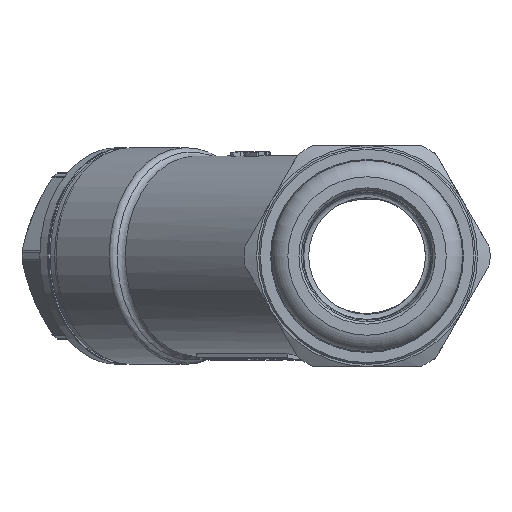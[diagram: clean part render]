
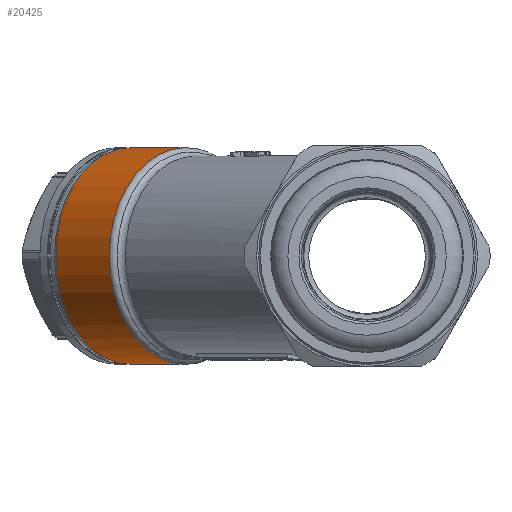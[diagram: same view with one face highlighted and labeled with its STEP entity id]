
A CAD part, left-side view. The second image highlights one B-rep face of the part: STEP entity #20425.
In plain terms, the highlighted cylindrical face has radius 13 mm (diameter 26 mm), a full revolution.
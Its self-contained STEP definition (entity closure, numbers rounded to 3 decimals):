
#14799=CARTESIAN_POINT('',(22.658,15.382,1.412));
#14800=VERTEX_POINT('',#14799);
#14809=CARTESIAN_POINT('',(22.935,15.582,0.765));
#14810=VERTEX_POINT('',#14809);
#14818=CARTESIAN_POINT('',(22.658,15.382,1.412));
#14819=CARTESIAN_POINT('',(22.71,15.423,1.344));
#14820=CARTESIAN_POINT('',(22.754,15.458,1.274));
#14821=CARTESIAN_POINT('',(22.792,15.486,1.202));
#14822=CARTESIAN_POINT('',(22.83,15.514,1.13));
#14823=CARTESIAN_POINT('',(22.861,15.537,1.056));
#14824=CARTESIAN_POINT('',(22.885,15.553,0.983));
#14825=CARTESIAN_POINT('',(22.909,15.569,0.91));
#14826=CARTESIAN_POINT('',(22.925,15.578,0.837));
#14827=CARTESIAN_POINT('',(22.935,15.582,0.765));
#14828=B_SPLINE_CURVE_WITH_KNOTS('',3,(#14818,#14819,#14820,#14821,#14822,#14823,#14824,#14825,#14826,#14827),.UNSPECIFIED.,.F.,.U.,(4,3,3,4),(0.0,0.333,0.667,1.0),.UNSPECIFIED.);
#14829=EDGE_CURVE('',#14800,#14810,#14828,.T.);
#14882=CARTESIAN_POINT('',(19.24,13.238,4.946));
#14883=VERTEX_POINT('',#14882);
#14884=CARTESIAN_POINT('',(19.24,13.238,4.946));
#14885=CARTESIAN_POINT('',(19.716,13.482,4.548));
#14886=CARTESIAN_POINT('',(20.158,13.725,4.149));
#14887=CARTESIAN_POINT('',(20.568,13.966,3.753));
#14888=CARTESIAN_POINT('',(20.978,14.207,3.356));
#14889=CARTESIAN_POINT('',(21.355,14.445,2.963));
#14890=CARTESIAN_POINT('',(21.703,14.681,2.572));
#14891=CARTESIAN_POINT('',(22.051,14.918,2.182));
#14892=CARTESIAN_POINT('',(22.369,15.152,1.794));
#14893=CARTESIAN_POINT('',(22.658,15.382,1.412));
#14894=B_SPLINE_CURVE_WITH_KNOTS('',3,(#14884,#14885,#14886,#14887,#14888,#14889,#14890,#14891,#14892,#14893),.UNSPECIFIED.,.F.,.U.,(4,3,3,4),(0.0,0.333,0.667,1.0),.UNSPECIFIED.);
#14895=EDGE_CURVE('',#14883,#14800,#14894,.T.);
#18990=CARTESIAN_POINT('',(19.24,13.238,-4.946));
#18991=VERTEX_POINT('',#18990);
#19009=CARTESIAN_POINT('',(10.739,21.739,0.0));
#19010=DIRECTION('',(0.707,0.707,0.0));
#19011=DIRECTION('',(-0.707,0.707,0.0));
#19012=AXIS2_PLACEMENT_3D('',#19009,#19010,#19011);
#19013=CIRCLE('',#19012,13.);
#19014=EDGE_CURVE('',#18991,#14883,#19013,.T.);
#19130=CARTESIAN_POINT('',(22.658,15.382,-1.412));
#19131=VERTEX_POINT('',#19130);
#19132=CARTESIAN_POINT('',(22.658,15.382,-1.412));
#19133=CARTESIAN_POINT('',(22.369,15.152,-1.794));
#19134=CARTESIAN_POINT('',(22.05,14.918,-2.182));
#19135=CARTESIAN_POINT('',(21.703,14.681,-2.572));
#19136=CARTESIAN_POINT('',(21.355,14.445,-2.963));
#19137=CARTESIAN_POINT('',(20.978,14.206,-3.357));
#19138=CARTESIAN_POINT('',(20.568,13.966,-3.753));
#19139=CARTESIAN_POINT('',(20.158,13.725,-4.149));
#19140=CARTESIAN_POINT('',(19.716,13.482,-4.548));
#19141=CARTESIAN_POINT('',(19.24,13.238,-4.946));
#19142=B_SPLINE_CURVE_WITH_KNOTS('',3,(#19132,#19133,#19134,#19135,#19136,#19137,#19138,#19139,#19140,#19141),.UNSPECIFIED.,.F.,.U.,(4,3,3,4),(0.0,0.333,0.667,1.0),.UNSPECIFIED.);
#19143=EDGE_CURVE('',#19131,#18991,#19142,.T.);
#19204=CARTESIAN_POINT('',(22.935,15.582,-0.765));
#19205=VERTEX_POINT('',#19204);
#19213=CARTESIAN_POINT('',(22.988,15.604,0.));
#19214=VERTEX_POINT('',#19213);
#19215=CARTESIAN_POINT('',(22.988,15.604,0.));
#19216=CARTESIAN_POINT('',(22.988,15.604,-0.085));
#19217=CARTESIAN_POINT('',(22.986,15.603,-0.171));
#19218=CARTESIAN_POINT('',(22.982,15.601,-0.256));
#19219=CARTESIAN_POINT('',(22.978,15.6,-0.341));
#19220=CARTESIAN_POINT('',(22.972,15.597,-0.426));
#19221=CARTESIAN_POINT('',(22.965,15.594,-0.511));
#19222=CARTESIAN_POINT('',(22.957,15.591,-0.596));
#19223=CARTESIAN_POINT('',(22.947,15.587,-0.681));
#19224=CARTESIAN_POINT('',(22.935,15.582,-0.765));
#19225=B_SPLINE_CURVE_WITH_KNOTS('',3,(#19215,#19216,#19217,#19218,#19219,#19220,#19221,#19222,#19223,#19224),.UNSPECIFIED.,.F.,.U.,(4,3,3,4),(0.0,0.333,0.667,1.0),.UNSPECIFIED.);
#19226=EDGE_CURVE('',#19214,#19205,#19225,.T.);
#19288=CARTESIAN_POINT('',(22.935,15.582,-0.765));
#19289=CARTESIAN_POINT('',(22.925,15.578,-0.837));
#19290=CARTESIAN_POINT('',(22.909,15.569,-0.91));
#19291=CARTESIAN_POINT('',(22.885,15.553,-0.983));
#19292=CARTESIAN_POINT('',(22.861,15.537,-1.056));
#19293=CARTESIAN_POINT('',(22.83,15.514,-1.13));
#19294=CARTESIAN_POINT('',(22.792,15.486,-1.202));
#19295=CARTESIAN_POINT('',(22.754,15.458,-1.274));
#19296=CARTESIAN_POINT('',(22.71,15.423,-1.344));
#19297=CARTESIAN_POINT('',(22.658,15.382,-1.412));
#19298=B_SPLINE_CURVE_WITH_KNOTS('',3,(#19288,#19289,#19290,#19291,#19292,#19293,#19294,#19295,#19296,#19297),.UNSPECIFIED.,.F.,.U.,(4,3,3,4),(0.0,0.333,0.667,1.0),.UNSPECIFIED.);
#19299=EDGE_CURVE('',#19205,#19131,#19298,.T.);
#20386=CARTESIAN_POINT('',(22.935,15.582,0.765));
#20387=CARTESIAN_POINT('',(22.953,15.589,0.636));
#20388=CARTESIAN_POINT('',(22.966,15.595,0.507));
#20389=CARTESIAN_POINT('',(22.975,15.598,0.379));
#20390=CARTESIAN_POINT('',(22.984,15.602,0.252));
#20391=CARTESIAN_POINT('',(22.988,15.604,0.125));
#20392=CARTESIAN_POINT('',(22.988,15.604,0.));
#20393=B_SPLINE_CURVE_WITH_KNOTS('',3,(#20386,#20387,#20388,#20389,#20390,#20391,#20392),.UNSPECIFIED.,.F.,.U.,(4,3,4),(0.0,0.5,1.0),.UNSPECIFIED.);
#20394=EDGE_CURVE('',#14810,#19214,#20393,.T.);
#20400=CARTESIAN_POINT('',(18.0,29.,0.0));
#20401=DIRECTION('',(0.707,0.707,0.0));
#20402=DIRECTION('',(0.707,-0.707,0.0));
#20403=AXIS2_PLACEMENT_3D('',#20400,#20401,#20402);
#20404=CYLINDRICAL_SURFACE('',#20403,13.);
#20405=CARTESIAN_POINT('',(8.101,37.485,0.0));
#20406=VERTEX_POINT('',#20405);
#20407=CARTESIAN_POINT('',(17.293,28.293,0.0));
#20408=DIRECTION('',(0.707,0.707,0.0));
#20409=DIRECTION('',(0.707,-0.707,0.0));
#20410=AXIS2_PLACEMENT_3D('',#20407,#20408,#20409);
#20411=CIRCLE('',#20410,13.);
#20412=EDGE_CURVE('',#20406,#20406,#20411,.T.);
#20413=ORIENTED_EDGE('',*,*,#20412,.F.);
#20414=EDGE_LOOP('',(#20413));
#20415=FACE_OUTER_BOUND('',#20414,.T.);
#20416=ORIENTED_EDGE('',*,*,#19014,.T.);
#20417=ORIENTED_EDGE('',*,*,#14895,.T.);
#20418=ORIENTED_EDGE('',*,*,#14829,.T.);
#20419=ORIENTED_EDGE('',*,*,#20394,.T.);
#20420=ORIENTED_EDGE('',*,*,#19226,.T.);
#20421=ORIENTED_EDGE('',*,*,#19299,.T.);
#20422=ORIENTED_EDGE('',*,*,#19143,.T.);
#20423=EDGE_LOOP('',(#20416,#20417,#20418,#20419,#20420,#20421,#20422));
#20424=FACE_BOUND('',#20423,.T.);
#20425=ADVANCED_FACE('',(#20415,#20424),#20404,.T.);
